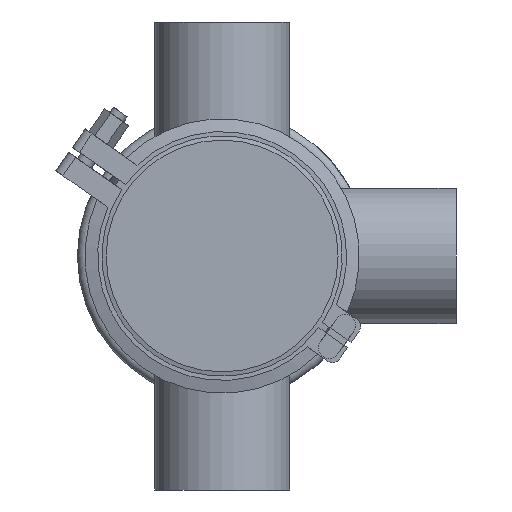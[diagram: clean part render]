
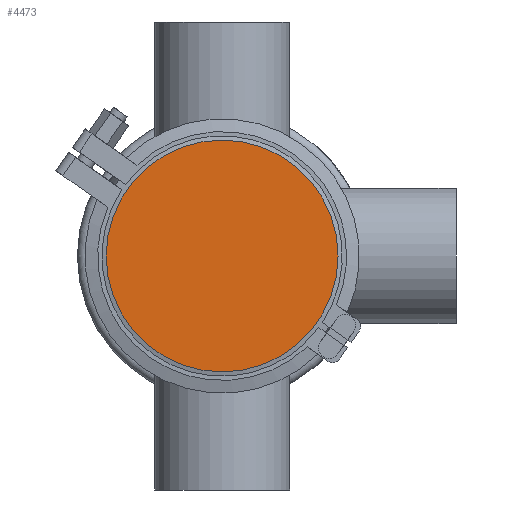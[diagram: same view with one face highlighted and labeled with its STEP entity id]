
A CAD part, front view. The second image highlights one B-rep face of the part: STEP entity #4473.
In plain terms, the highlighted planar face has unit normal (0, -1, 0).
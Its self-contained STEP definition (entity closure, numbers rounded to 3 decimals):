
#499 = EDGE_LOOP ( 'NONE', ( #2641 ) ) ;
#1149 = CARTESIAN_POINT ( 'NONE',  ( 0., 0., 54.5 ) ) ;
#2641 = ORIENTED_EDGE ( 'NONE', *, *, #7349, .F. ) ;
#4473 = ADVANCED_FACE ( 'NONE', ( #12186 ), #10447, .T. ) ;
#7107 = DIRECTION ( 'NONE',  ( 0., 0., 1. ) ) ;
#7349 = EDGE_CURVE ( 'NONE', #12995, #12995, #15291, .T. ) ;
#9044 = CARTESIAN_POINT ( 'NONE',  ( 0., 0., 0. ) ) ;
#9420 = AXIS2_PLACEMENT_3D ( 'NONE', #9044, #17049, #7107 ) ;
#10447 = PLANE ( 'NONE',  #12597 ) ;
#12186 = FACE_OUTER_BOUND ( 'NONE', #499, .T. ) ;
#12597 = AXIS2_PLACEMENT_3D ( 'NONE', #20491, #17240, #18755 ) ;
#12995 = VERTEX_POINT ( 'NONE', #1149 ) ;
#15291 = CIRCLE ( 'NONE', #9420, 54.5 ) ;
#17049 = DIRECTION ( 'NONE',  ( 0., 1., 0. ) ) ;
#17240 = DIRECTION ( 'NONE',  ( 0., -1., 0. ) ) ;
#18755 = DIRECTION ( 'NONE',  ( 0., 0., -1. ) ) ;
#20491 = CARTESIAN_POINT ( 'NONE',  ( -54.5, 0., 0. ) ) ;
